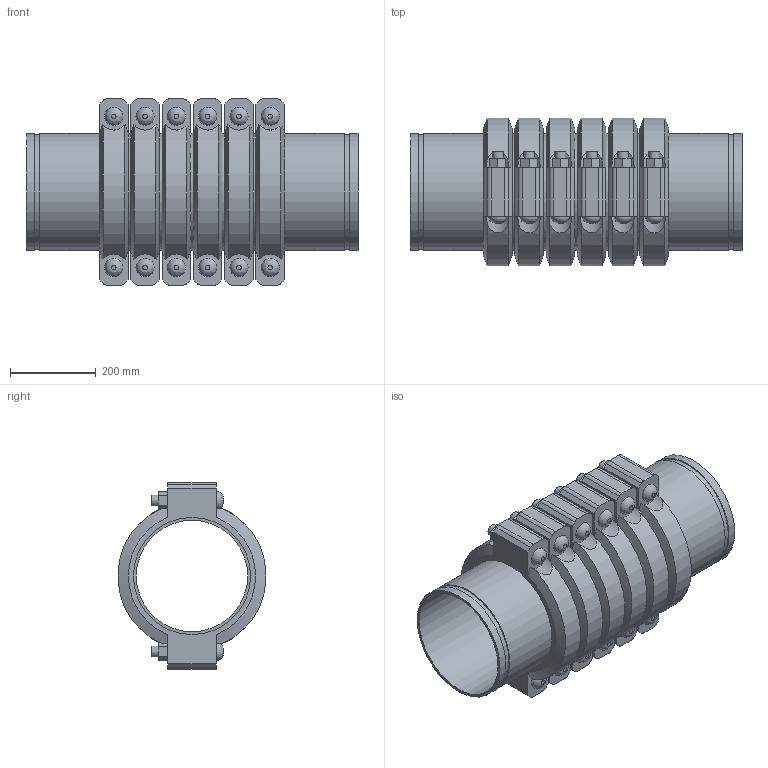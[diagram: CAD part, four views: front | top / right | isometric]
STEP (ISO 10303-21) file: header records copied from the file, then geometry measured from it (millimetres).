
FILE_DESCRIPTION(/* description */ ('VIC SS EXPANSION JOINT 6 COUPLINGS NEUTRAL STYLE 155P (OGS) (POTABLE WATER) ','CAx-IF Rec.Pracs.---Representation and Presentation of Product Manufacturing Information (PMI)---4.0---2014-10-13'),/* implementation_level */ '2;1');
FILE_NAME(/* name */ 'C:\Users\kkamble\AppData\Roaming\Autodesk\ApplicationPlugins\Victaulic.Temp\A292\Victaulic_SS_Expansion Joint_Neutral_6 Couplings_Style 155P (OGS)-Potable Water_6 Coup_Neut_10 (250).stp',/* time_stamp */ '2021-07-16T16:36:20+05:00',/* author */ ('kkamble'),/* organization */ ('Victaulic'),/* preprocessor_version */ 'ST-DEVELOPER v17.2',/* originating_system */ 'Autodesk Inventor 2019',/* authorisation */ '');
FILE_SCHEMA (('AP242_MANAGED_MODEL_BASED_3D_ENGINEERING_MIM_LF { 1 0 10303 442 1 1 4 }'));
Length unit declared in the file: inch
Products named in the file (4): 155-10.0; Nipple-10.0; Nipple-10.0_1; 077-10.0
Assembly tree (13 placements, depth 2):
  155-10.0
    Nipple-10.0  x2
    Nipple-10.0_1  x5
    077-10.0  x6
Bounding box: 774.7 x 344.9 x 435.1 mm (x, y, z)
Volume: 21264732.1 mm3; surface area: 3076153.8 mm2
Topology: 13 solids, 25 shells, 450 faces, 1080 edges, 756 vertices
Faces by surface type: plane 258, cylinder 156, cone 24, bspline 12
Full cylindrical faces by diameter (mm): 25.4 x24, 27.432 x12, 260.35 x7, 264.16 x6, 268.275 x14, 273.05 x33
Entity records: 3089 total; most frequent: CARTESIAN_POINT 677, DIRECTION 481, ORIENTED_EDGE 410, EDGE_CURVE 205, AXIS2_PLACEMENT_3D 196, VERTEX_POINT 146, EDGE_LOOP 111, CIRCLE 96
